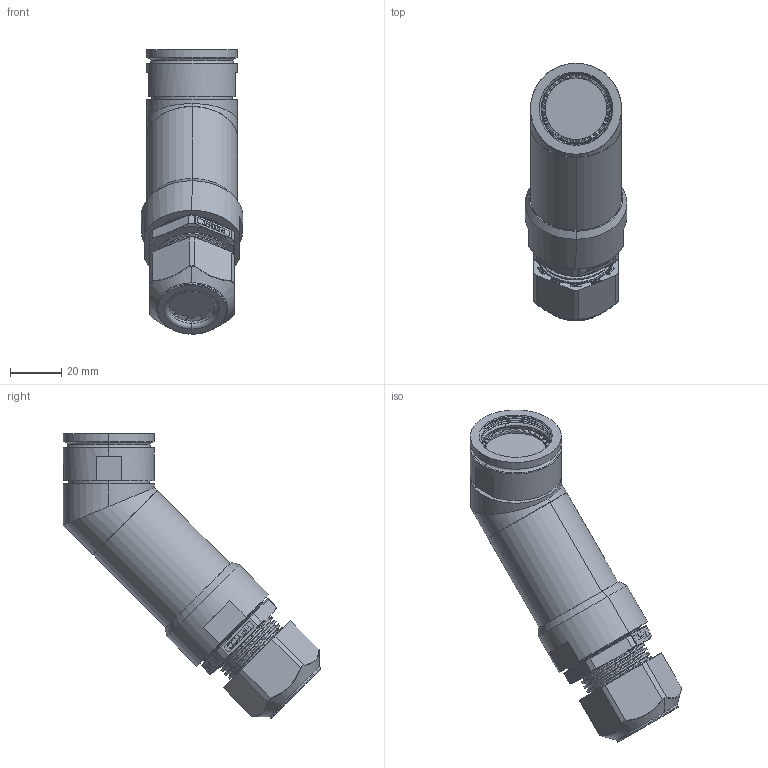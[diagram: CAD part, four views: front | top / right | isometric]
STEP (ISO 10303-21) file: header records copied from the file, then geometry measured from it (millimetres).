
FILE_DESCRIPTION (( 'STEP AP214' ), '1' );
FILE_NAME ('Q38SHELL-45X-19-XXXX-GL.STEP', '2025-09-26T14:28:32', ( '' ), ( '' ), 'SwSTEP 2.0', 'SolidWorks 2024', '' );
FILE_SCHEMA (( 'AUTOMOTIVE_DESIGN' ));
Length unit declared in the file: millimetre
Products named in the file (1): Q38SHELL-45X-19-XXXX-GL
Bounding box: 39.62 x 99.98 x 110.52 mm (x, y, z)
Surface area: 36962.3 mm2 (no closed solid volume)
Topology: 0 solids, 9 shells, 1357 faces, 3641 edges, 2354 vertices
Faces by surface type: plane 711, cylinder 248, bspline 140, torus 121, cone 117, sphere 20
Entity records: 63332 total; most frequent: CARTESIAN_POINT 36143, ORIENTED_EDGE 7233, EDGE_CURVE 3641, DIRECTION 3261, B_SPLINE_CURVE_WITH_KNOTS 2833, VERTEX_POINT 2354, AXIS2_PLACEMENT_3D 1492, EDGE_LOOP 1427
